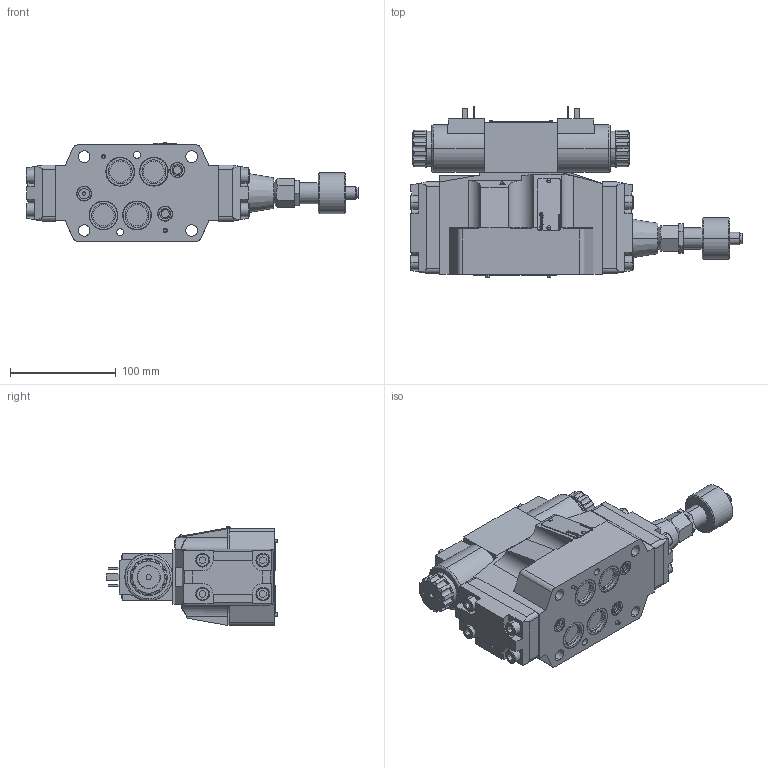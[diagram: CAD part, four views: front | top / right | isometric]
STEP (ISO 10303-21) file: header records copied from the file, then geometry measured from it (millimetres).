
FILE_DESCRIPTION (( 'STEP AP203' ), '1' );
FILE_NAME ('H-4WEH_16_HE7X_6EG24N9K4QMAG24_VNone_Emm.STEP', '2020-06-10T10:03:45', ( '' ), ( '' ), 'SwSTEP 2.0', 'SolidWorks 2020', '' );
FILE_SCHEMA (( 'CONFIG_CONTROL_DESIGN' ));
Products named in the file (1): H-4WEH_16_HE7X_6EG24N9K4QMAG24_VNone_Emm
Bounding box: 314 x 162 x 93.47 mm (x, y, z)
Volume: 1670796.8 mm3; surface area: 192992.6 mm2
Topology: 41 solids, 41 shells, 2565 faces, 6972 edges, 4609 vertices
Faces by surface type: plane 2019, cylinder 268, bspline 234, cone 44
Entity records: 85831 total; most frequent: CARTESIAN_POINT 22034, ORIENTED_EDGE 13928, DIRECTION 11877, EDGE_CURVE 6964, LINE 5765, VECTOR 5765, VERTEX_POINT 4609, AXIS2_PLACEMENT_3D 3056
